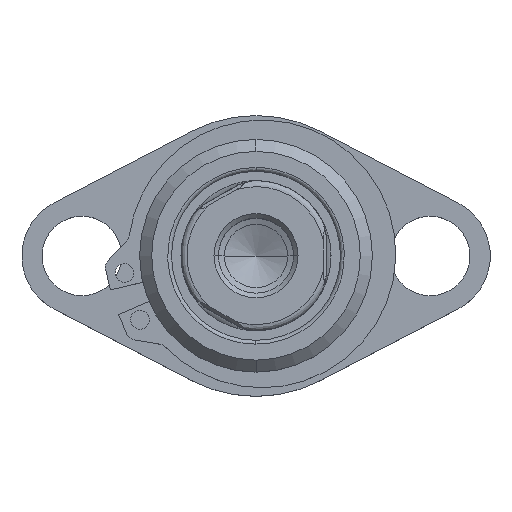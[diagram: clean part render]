
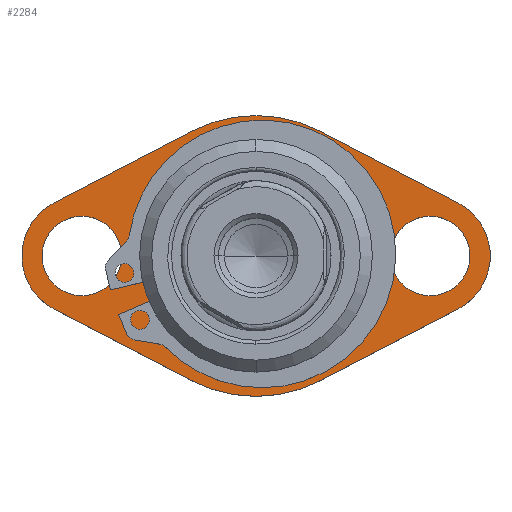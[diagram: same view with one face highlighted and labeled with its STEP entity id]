
A CAD part, top view. The second image highlights one B-rep face of the part: STEP entity #2284.
In plain terms, the highlighted planar face has unit normal (0, 0, 1) as drawn and (0, 1, 0) by its records, which use the part's own axes.
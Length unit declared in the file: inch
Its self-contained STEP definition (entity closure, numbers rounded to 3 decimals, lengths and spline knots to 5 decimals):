
#30 = CIRCLE ( 'NONE', #785, 0.265 ) ;
#67 = DIRECTION ( 'NONE',  ( 0., -1., 0. ) ) ;
#113 = CARTESIAN_POINT ( 'NONE',  ( -1.34448, 0.25, 0.35492 ) ) ;
#115 = DIRECTION ( 'NONE',  ( 0., -1., 0. ) ) ;
#165 = AXIS2_PLACEMENT_3D ( 'NONE', #1739, #115, #548 ) ;
#175 = DIRECTION ( 'NONE',  ( 0., -1., 0. ) ) ;
#230 = AXIS2_PLACEMENT_3D ( 'NONE', #1291, #2556, #2504 ) ;
#332 = CARTESIAN_POINT ( 'NONE',  ( -1.16, 0.25, 0. ) ) ;
#342 = AXIS2_PLACEMENT_3D ( 'NONE', #3920, #4748, #1457 ) ;
#388 = CARTESIAN_POINT ( 'NONE',  ( -0.43123, 0.25, 0.82962 ) ) ;
#451 = VERTEX_POINT ( 'NONE', #4379 ) ;
#471 = EDGE_LOOP ( 'NONE', ( #4412, #4339 ) ) ;
#476 = CARTESIAN_POINT ( 'NONE',  ( 0., 0.25, 0. ) ) ;
#481 = CARTESIAN_POINT ( 'NONE',  ( 0., 0.25, 0. ) ) ;
#498 = DIRECTION ( 'NONE',  ( 0., -1., 0. ) ) ;
#548 = DIRECTION ( 'NONE',  ( 0., 0., -1. ) ) ;
#586 = DIRECTION ( 'NONE',  ( 0., 0., -1. ) ) ;
#623 = EDGE_CURVE ( 'NONE', #451, #3656, #1565, .T. ) ;
#648 = AXIS2_PLACEMENT_3D ( 'NONE', #1435, #175, #586 ) ;
#692 = ORIENTED_EDGE ( 'NONE', *, *, #821, .T. ) ;
#765 = DIRECTION ( 'NONE',  ( 0., 0., -1. ) ) ;
#768 = ORIENTED_EDGE ( 'NONE', *, *, #3447, .F. ) ;
#785 = AXIS2_PLACEMENT_3D ( 'NONE', #332, #4511, #3237 ) ;
#811 = AXIS2_PLACEMENT_3D ( 'NONE', #481, #67, #2101 ) ;
#816 = DIRECTION ( 'NONE',  ( 0., -1., 0. ) ) ;
#821 = EDGE_CURVE ( 'NONE', #3117, #4121, #2991, .T. ) ;
#837 = EDGE_CURVE ( 'NONE', #451, #4215, #5049, .T. ) ;
#856 = DIRECTION ( 'NONE',  ( 0., 0., -1. ) ) ;
#897 = VERTEX_POINT ( 'NONE', #2761 ) ;
#944 = CARTESIAN_POINT ( 'NONE',  ( 0.43123, 0.25, -0.82962 ) ) ;
#973 = ORIENTED_EDGE ( 'NONE', *, *, #3587, .T. ) ;
#1007 = VERTEX_POINT ( 'NONE', #3313 ) ;
#1012 = ORIENTED_EDGE ( 'NONE', *, *, #623, .T. ) ;
#1060 = EDGE_CURVE ( 'NONE', #897, #3898, #4985, .T. ) ;
#1081 = ORIENTED_EDGE ( 'NONE', *, *, #1562, .T. ) ;
#1154 = DIRECTION ( 'NONE',  ( 0., 0., -1. ) ) ;
#1291 = CARTESIAN_POINT ( 'NONE',  ( 0., 0.25, 0. ) ) ;
#1369 = ORIENTED_EDGE ( 'NONE', *, *, #5259, .F. ) ;
#1370 = DIRECTION ( 'NONE',  ( -0.887, 0., -0.461 ) ) ;
#1435 = CARTESIAN_POINT ( 'NONE',  ( 1.16, 0.25, 0. ) ) ;
#1436 = FACE_OUTER_BOUND ( 'NONE', #3251, .T. ) ;
#1457 = DIRECTION ( 'NONE',  ( 0., 0., 1. ) ) ;
#1513 = DIRECTION ( 'NONE',  ( 0., -1., 0. ) ) ;
#1562 = EDGE_CURVE ( 'NONE', #5150, #2871, #4450, .T. ) ;
#1565 = LINE ( 'NONE', #5276, #4302 ) ;
#1575 = CIRCLE ( 'NONE', #648, 0.4 ) ;
#1582 = AXIS2_PLACEMENT_3D ( 'NONE', #5273, #2449, #3252 ) ;
#1705 = DIRECTION ( 'NONE',  ( 0., -1., 0. ) ) ;
#1739 = CARTESIAN_POINT ( 'NONE',  ( 1.16, 0.25, 0. ) ) ;
#1807 = AXIS2_PLACEMENT_3D ( 'NONE', #476, #4190, #856 ) ;
#1948 = ORIENTED_EDGE ( 'NONE', *, *, #837, .F. ) ;
#1961 = CIRCLE ( 'NONE', #1582, 0.265 ) ;
#2023 = VERTEX_POINT ( 'NONE', #2837 ) ;
#2041 = VECTOR ( 'NONE', #2922, 39.37008 ) ;
#2101 = DIRECTION ( 'NONE',  ( 0., 0., -1. ) ) ;
#2129 = VERTEX_POINT ( 'NONE', #2170 ) ;
#2141 = DIRECTION ( 'NONE',  ( 0., 0., -1. ) ) ;
#2170 = CARTESIAN_POINT ( 'NONE',  ( -1.16, 0.25, 0.265 ) ) ;
#2178 = AXIS2_PLACEMENT_3D ( 'NONE', #4234, #1705, #2141 ) ;
#2216 = CARTESIAN_POINT ( 'NONE',  ( 0., 0.25, -0.775 ) ) ;
#2284 = ADVANCED_FACE ( 'NONE', ( #3456, #1436, #2552, #2483 ), #3834, .T. ) ;
#2285 = CIRCLE ( 'NONE', #2559, 0.935 ) ;
#2344 = EDGE_LOOP ( 'NONE', ( #2400, #4368 ) ) ;
#2395 = ORIENTED_EDGE ( 'NONE', *, *, #1060, .F. ) ;
#2400 = ORIENTED_EDGE ( 'NONE', *, *, #3971, .T. ) ;
#2441 = CIRCLE ( 'NONE', #165, 0.265 ) ;
#2449 = DIRECTION ( 'NONE',  ( 0., -1., 0. ) ) ;
#2483 = FACE_BOUND ( 'NONE', #4740, .T. ) ;
#2504 = DIRECTION ( 'NONE',  ( 0., 0., -1. ) ) ;
#2508 = EDGE_CURVE ( 'NONE', #3898, #2871, #2285, .T. ) ;
#2552 = FACE_BOUND ( 'NONE', #2344, .T. ) ;
#2556 = DIRECTION ( 'NONE',  ( 0., -1., 0. ) ) ;
#2559 = AXIS2_PLACEMENT_3D ( 'NONE', #4005, #1513, #1154 ) ;
#2564 = EDGE_CURVE ( 'NONE', #4121, #3117, #4927, .T. ) ;
#2641 = VERTEX_POINT ( 'NONE', #113 ) ;
#2761 = CARTESIAN_POINT ( 'NONE',  ( -0.43123, 0.25, -0.82962 ) ) ;
#2837 = CARTESIAN_POINT ( 'NONE',  ( -1.16, 0.25, -0.265 ) ) ;
#2871 = VERTEX_POINT ( 'NONE', #4958 ) ;
#2922 = DIRECTION ( 'NONE',  ( -0.887, 0., 0.461 ) ) ;
#2981 = CARTESIAN_POINT ( 'NONE',  ( 1.34448, 0.25, -0.35492 ) ) ;
#2991 = CIRCLE ( 'NONE', #811, 0.775 ) ;
#3009 = ORIENTED_EDGE ( 'NONE', *, *, #3936, .T. ) ;
#3117 = VERTEX_POINT ( 'NONE', #2216 ) ;
#3237 = DIRECTION ( 'NONE',  ( 0., 0., -1. ) ) ;
#3251 = EDGE_LOOP ( 'NONE', ( #768, #973, #1948, #1012, #1369, #1081, #4925, #2395, #3009 ) ) ;
#3252 = DIRECTION ( 'NONE',  ( 0., 0., -1. ) ) ;
#3313 = CARTESIAN_POINT ( 'NONE',  ( -1.34448, 0.25, -0.35492 ) ) ;
#3447 = EDGE_CURVE ( 'NONE', #2641, #1007, #4628, .T. ) ;
#3456 = FACE_BOUND ( 'NONE', #471, .T. ) ;
#3480 = CARTESIAN_POINT ( 'NONE',  ( 1.16, 0.25, -0.265 ) ) ;
#3587 = EDGE_CURVE ( 'NONE', #2641, #4215, #5241, .T. ) ;
#3656 = VERTEX_POINT ( 'NONE', #5197 ) ;
#3692 = EDGE_CURVE ( 'NONE', #2023, #2129, #1961, .T. ) ;
#3833 = CARTESIAN_POINT ( 'NONE',  ( -1.34448, 0.25, -0.35492 ) ) ;
#3834 = PLANE ( 'NONE',  #342 ) ;
#3842 = DIRECTION ( 'NONE',  ( 0., 0., -1. ) ) ;
#3898 = VERTEX_POINT ( 'NONE', #4119 ) ;
#3920 = CARTESIAN_POINT ( 'NONE',  ( 0., 0.25, 0. ) ) ;
#3936 = EDGE_CURVE ( 'NONE', #897, #1007, #4521, .T. ) ;
#3971 = EDGE_CURVE ( 'NONE', #5219, #5354, #2441, .T. ) ;
#4005 = CARTESIAN_POINT ( 'NONE',  ( 0., 0.25, 0. ) ) ;
#4119 = CARTESIAN_POINT ( 'NONE',  ( 0., 0.25, -0.935 ) ) ;
#4121 = VERTEX_POINT ( 'NONE', #4129 ) ;
#4127 = CIRCLE ( 'NONE', #2178, 0.265 ) ;
#4129 = CARTESIAN_POINT ( 'NONE',  ( 0., 0.25, 0.775 ) ) ;
#4183 = VECTOR ( 'NONE', #1370, 39.37008 ) ;
#4190 = DIRECTION ( 'NONE',  ( 0., -1., 0. ) ) ;
#4215 = VERTEX_POINT ( 'NONE', #388 ) ;
#4234 = CARTESIAN_POINT ( 'NONE',  ( 1.16, 0.25, 0. ) ) ;
#4244 = CARTESIAN_POINT ( 'NONE',  ( -1.16, 0.25, 0. ) ) ;
#4291 = ORIENTED_EDGE ( 'NONE', *, *, #2564, .T. ) ;
#4302 = VECTOR ( 'NONE', #5200, 39.37008 ) ;
#4339 = ORIENTED_EDGE ( 'NONE', *, *, #4707, .T. ) ;
#4343 = EDGE_CURVE ( 'NONE', #5354, #5219, #4127, .T. ) ;
#4355 = CARTESIAN_POINT ( 'NONE',  ( -1.34448, 0.25, 0.35492 ) ) ;
#4368 = ORIENTED_EDGE ( 'NONE', *, *, #4343, .T. ) ;
#4379 = CARTESIAN_POINT ( 'NONE',  ( 0.43123, 0.25, 0.82962 ) ) ;
#4412 = ORIENTED_EDGE ( 'NONE', *, *, #3692, .T. ) ;
#4450 = LINE ( 'NONE', #944, #4183 ) ;
#4511 = DIRECTION ( 'NONE',  ( 0., -1., 0. ) ) ;
#4521 = LINE ( 'NONE', #3833, #2041 ) ;
#4621 = AXIS2_PLACEMENT_3D ( 'NONE', #4941, #816, #765 ) ;
#4628 = CIRCLE ( 'NONE', #5325, 0.4 ) ;
#4707 = EDGE_CURVE ( 'NONE', #2129, #2023, #30, .T. ) ;
#4740 = EDGE_LOOP ( 'NONE', ( #692, #4291 ) ) ;
#4748 = DIRECTION ( 'NONE',  ( 0., 1., 0. ) ) ;
#4774 = DIRECTION ( 'NONE',  ( 0.887, 0., 0.461 ) ) ;
#4811 = VECTOR ( 'NONE', #4774, 39.37008 ) ;
#4925 = ORIENTED_EDGE ( 'NONE', *, *, #2508, .F. ) ;
#4927 = CIRCLE ( 'NONE', #4621, 0.775 ) ;
#4941 = CARTESIAN_POINT ( 'NONE',  ( 0., 0.25, 0. ) ) ;
#4958 = CARTESIAN_POINT ( 'NONE',  ( 0.43123, 0.25, -0.82962 ) ) ;
#4985 = CIRCLE ( 'NONE', #1807, 0.935 ) ;
#5049 = CIRCLE ( 'NONE', #230, 0.935 ) ;
#5150 = VERTEX_POINT ( 'NONE', #2981 ) ;
#5197 = CARTESIAN_POINT ( 'NONE',  ( 1.34448, 0.25, 0.35492 ) ) ;
#5200 = DIRECTION ( 'NONE',  ( 0.887, 0., -0.461 ) ) ;
#5219 = VERTEX_POINT ( 'NONE', #3480 ) ;
#5227 = CARTESIAN_POINT ( 'NONE',  ( 1.16, 0.25, 0.265 ) ) ;
#5241 = LINE ( 'NONE', #4355, #4811 ) ;
#5259 = EDGE_CURVE ( 'NONE', #5150, #3656, #1575, .T. ) ;
#5273 = CARTESIAN_POINT ( 'NONE',  ( -1.16, 0.25, 0. ) ) ;
#5276 = CARTESIAN_POINT ( 'NONE',  ( 0.43123, 0.25, 0.82962 ) ) ;
#5325 = AXIS2_PLACEMENT_3D ( 'NONE', #4244, #498, #3842 ) ;
#5354 = VERTEX_POINT ( 'NONE', #5227 ) ;
